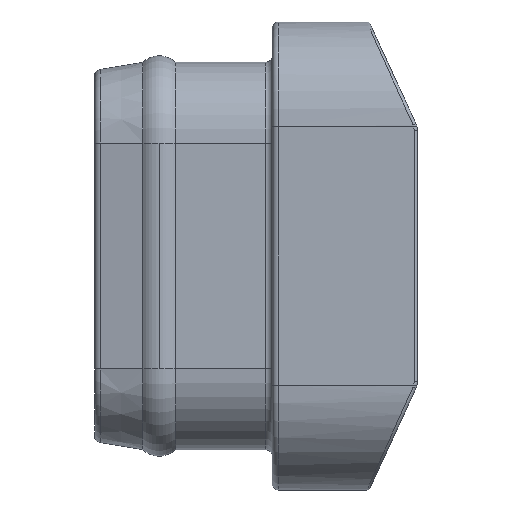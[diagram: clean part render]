
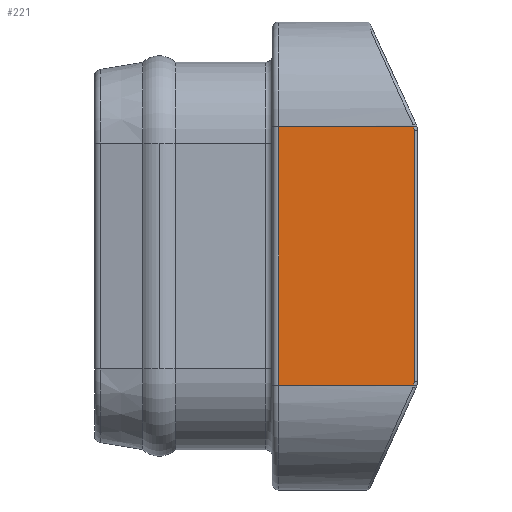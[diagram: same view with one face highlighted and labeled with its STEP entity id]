
A CAD part, left-side view. The second image highlights one B-rep face of the part: STEP entity #221.
In plain terms, the highlighted planar face has unit normal (-1, 0, 0).
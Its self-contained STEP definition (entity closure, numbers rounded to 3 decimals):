
#5 = LINE ( 'NONE', #2264, #2956 ) ;
#38 = DIRECTION ( 'NONE',  ( 0., 0., -1. ) ) ;
#107 = VERTEX_POINT ( 'NONE', #1535 ) ;
#159 = DIRECTION ( 'NONE',  ( 0., 0., -1. ) ) ;
#221 = ADVANCED_FACE ( 'NONE', ( #1063 ), #1013, .F. ) ;
#438 = ORIENTED_EDGE ( 'NONE', *, *, #1739, .T. ) ;
#507 = VECTOR ( 'NONE', #2131, 1000. ) ;
#595 = CARTESIAN_POINT ( 'NONE',  ( -3.25, -9.5, 0.39 ) ) ;
#653 = VERTEX_POINT ( 'NONE', #3518 ) ;
#685 = CARTESIAN_POINT ( 'NONE',  ( -3.25, -10., 0.5 ) ) ;
#686 = LINE ( 'NONE', #3490, #3719 ) ;
#754 = CARTESIAN_POINT ( 'NONE',  ( -3.25, -5.7, -7.5 ) ) ;
#806 = EDGE_CURVE ( 'NONE', #107, #1117, #3638, .T. ) ;
#827 = ORIENTED_EDGE ( 'NONE', *, *, #1575, .F. ) ;
#951 = ORIENTED_EDGE ( 'NONE', *, *, #806, .T. ) ;
#1013 = PLANE ( 'NONE',  #3517 ) ;
#1063 = FACE_OUTER_BOUND ( 'NONE', #1463, .T. ) ;
#1117 = VERTEX_POINT ( 'NONE', #2901 ) ;
#1295 = CARTESIAN_POINT ( 'NONE',  ( -3.25, -5.7, 0.5 ) ) ;
#1420 = CARTESIAN_POINT ( 'NONE',  ( -3.25, -10., -7.5 ) ) ;
#1463 = EDGE_LOOP ( 'NONE', ( #1910, #1967, #827, #3562, #951, #438 ) ) ;
#1534 = EDGE_CURVE ( 'NONE', #3616, #2874, #686, .T. ) ;
#1535 = CARTESIAN_POINT ( 'NONE',  ( -3.25, -9.9, -7.39 ) ) ;
#1567 = VECTOR ( 'NONE', #1696, 1000. ) ;
#1575 = EDGE_CURVE ( 'NONE', #3266, #2874, #1986, .T. ) ;
#1696 = DIRECTION ( 'NONE',  ( 0., 1., 0. ) ) ;
#1706 = AXIS2_PLACEMENT_3D ( 'NONE', #595, #1794, #38 ) ;
#1739 = EDGE_CURVE ( 'NONE', #1117, #653, #3369, .T. ) ;
#1752 = DIRECTION ( 'NONE',  ( -1., 0., 0. ) ) ;
#1794 = DIRECTION ( 'NONE',  ( -1., 0., 0. ) ) ;
#1910 = ORIENTED_EDGE ( 'NONE', *, *, #2516, .T. ) ;
#1918 = DIRECTION ( 'NONE',  ( 0., 0., -1. ) ) ;
#1937 = CIRCLE ( 'NONE', #2207, 0.4 ) ;
#1967 = ORIENTED_EDGE ( 'NONE', *, *, #1534, .T. ) ;
#1986 = LINE ( 'NONE', #1420, #1567 ) ;
#2131 = DIRECTION ( 'NONE',  ( 0., 0., 1. ) ) ;
#2207 = AXIS2_PLACEMENT_3D ( 'NONE', #2570, #1752, #159 ) ;
#2264 = CARTESIAN_POINT ( 'NONE',  ( -3.25, -10., 0.5 ) ) ;
#2498 = DIRECTION ( 'NONE',  ( 1., 0., 0. ) ) ;
#2516 = EDGE_CURVE ( 'NONE', #653, #3616, #5, .T. ) ;
#2570 = CARTESIAN_POINT ( 'NONE',  ( -3.25, -9.5, -7.39 ) ) ;
#2651 = CARTESIAN_POINT ( 'NONE',  ( -3.25, -9.885, -7.5 ) ) ;
#2740 = EDGE_CURVE ( 'NONE', #3266, #107, #1937, .T. ) ;
#2874 = VERTEX_POINT ( 'NONE', #754 ) ;
#2901 = CARTESIAN_POINT ( 'NONE',  ( -3.25, -9.9, 0.39 ) ) ;
#2956 = VECTOR ( 'NONE', #3721, 1000. ) ;
#3009 = CARTESIAN_POINT ( 'NONE',  ( -3.25, -9.9, 0.39 ) ) ;
#3266 = VERTEX_POINT ( 'NONE', #2651 ) ;
#3267 = DIRECTION ( 'NONE',  ( 0., 0., -1. ) ) ;
#3369 = CIRCLE ( 'NONE', #1706, 0.4 ) ;
#3490 = CARTESIAN_POINT ( 'NONE',  ( -3.25, -5.7, 0.5 ) ) ;
#3517 = AXIS2_PLACEMENT_3D ( 'NONE', #685, #2498, #1918 ) ;
#3518 = CARTESIAN_POINT ( 'NONE',  ( -3.25, -9.885, 0.5 ) ) ;
#3562 = ORIENTED_EDGE ( 'NONE', *, *, #2740, .T. ) ;
#3616 = VERTEX_POINT ( 'NONE', #1295 ) ;
#3638 = LINE ( 'NONE', #3009, #507 ) ;
#3719 = VECTOR ( 'NONE', #3267, 1000. ) ;
#3721 = DIRECTION ( 'NONE',  ( 0., 1., 0. ) ) ;
